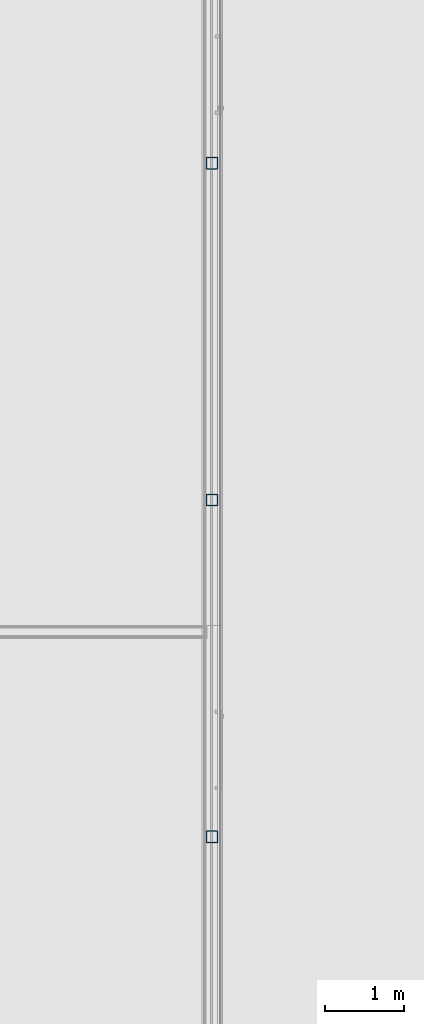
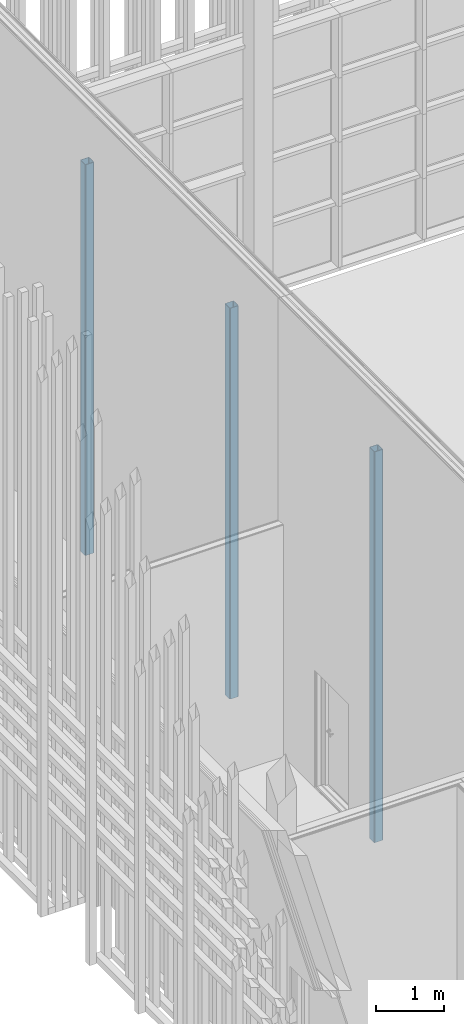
# One storey, part 66 of 260: 3 columns.
"""IFC2X3 building model written with IfcOpenShell, lengths in millimetres."""

from ifc_helpers import new_model, entity, si_unit, converted_unit, derived_unit, money_unit, direction, frame, origin_with_axes, place, context, subcontext, project, spatial, faceted_brep, material, type_object, element, save


model = new_model("IFC2X3")

# Units and contexts
model_context = context("Model", 3, precision=0.01, world=origin_with_axes(), true_north=direction((0.0, 1.0)))
body_context = subcontext(model_context, "Body", "Model", "MODEL_VIEW")
ifc_project = project(units=[si_unit("LENGTHUNIT", "METRE", prefix="MILLI"), si_unit("AREAUNIT", "SQUARE_METRE"), si_unit("VOLUMEUNIT", "CUBIC_METRE"), converted_unit("PLANEANGLEUNIT", "DEGREE", entity("IfcPlaneAngleMeasure", 0.0174532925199), si_unit("PLANEANGLEUNIT", "RADIAN"), dimensions=[0, 0, 0, 0, 0, 0, 0]), money_unit("EUR"), converted_unit("TIMEUNIT", "Year", entity("IfcTimeMeasure", 31556926.0), si_unit("TIMEUNIT", "SECOND"), dimensions=[0, 0, 1, 0, 0, 0, 0]), si_unit("MASSUNIT", "GRAM", prefix="KILO"), si_unit("THERMODYNAMICTEMPERATUREUNIT", "DEGREE_CELSIUS"), si_unit("LUMINOUSINTENSITYUNIT", "LUMEN"), si_unit("ENERGYUNIT", "JOULE", prefix="MEGA"), derived_unit("THERMALCONDUCTANCEUNIT", [(si_unit("POWERUNIT", "WATT"), 1), (si_unit("LENGTHUNIT", "METRE"), -1), (si_unit("THERMODYNAMICTEMPERATUREUNIT", "KELVIN"), -1)]), derived_unit("SPECIFICHEATCAPACITYUNIT", [(si_unit("ENERGYUNIT", "JOULE"), 1), (si_unit("MASSUNIT", "GRAM", prefix="KILO"), -1), (si_unit("THERMODYNAMICTEMPERATUREUNIT", "KELVIN"), -1)]), derived_unit("MASSDENSITYUNIT", [(si_unit("MASSUNIT", "GRAM", prefix="KILO"), 1), (si_unit("VOLUMEUNIT", "CUBIC_METRE"), -1)])], contexts=[model_context])

# Site, building, storey
site_placement = place(None, origin_with_axes())
site = spatial("IfcSite", under=ifc_project, at=site_placement, Name="Kolde pst 67a", CompositionType="ELEMENT")
building_placement = place(site_placement, origin_with_axes())
building = spatial("IfcBuilding", under=site, at=building_placement, Name="Riigigümnaasium", CompositionType="ELEMENT")
storey_placement = place(building_placement, origin_with_axes())
storey = spatial("IfcBuildingStorey", under=building, at=storey_placement, Name="1. korrus", CompositionType="ELEMENT", Elevation=0.0)

# Columns
ifc_material = material(Name="IFC Building Material")
column_type = type_object("IfcColumnType", Name="SHS150x150x6 150 x 150", PredefinedType="COLUMN")
column_1_placement = place(storey_placement, frame((4270.0, 71525.2790942, 0.0), z_axis=(0.0, 0.0, 1.0), x_axis=(1.0, 0.0, 0.0)))
element("IfcColumn", 1, at=column_1_placement, inside=storey, type_object=column_type, material=ifc_material, Name="Post", ObjectType="COLUMN", context=body_context, shape_type="Brep", body=[
    faceted_brep([(71.4852813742, -71.4852813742, 7000.0), (71.4852813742, -71.4852813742, 0.0), (75.0, -63.0, 0.0), (75.0, -63.0, 7000.0), (63.0, -75.0, 7000.0), (63.0, -75.0, 0.0), (-63.0, -75.0, 0.0), (-71.4852813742, -71.4852813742, 0.0), (-75.0, -63.0, 0.0), (-75.0, 63.0, 0.0), (-71.4852813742, 71.4852813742, 0.0), (-63.0, 75.0, 0.0), (63.0, 75.0, 0.0), (71.4852813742, 71.4852813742, 0.0), (75.0, 63.0, 0.0), (-67.2426406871, -67.2426406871, 0.0), (-63.0, -69.0, 0.0), (63.0, -69.0, 0.0), (67.2426406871, -67.2426406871, 0.0), (69.0, -63.0, 0.0), (69.0, 63.0, 0.0), (67.2426406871, 67.2426406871, 0.0), (63.0, 69.0, 0.0), (-63.0, 69.0, 0.0), (-67.2426406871, 67.2426406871, 0.0), (-69.0, 63.0, 0.0), (-69.0, -63.0, 0.0), (75.0, 63.0, 7000.0), (71.4852813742, 71.4852813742, 7000.0), (63.0, 75.0, 7000.0), (-63.0, 75.0, 7000.0), (-71.4852813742, 71.4852813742, 7000.0), (-75.0, 63.0, 7000.0), (-75.0, -63.0, 7000.0), (-71.4852813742, -71.4852813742, 7000.0), (-63.0, -75.0, 7000.0), (63.0, -69.0, 7000.0), (-63.0, -69.0, 7000.0), (-67.2426406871, -67.2426406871, 7000.0), (-69.0, -63.0, 7000.0), (-69.0, 63.0, 7000.0), (-67.2426406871, 67.2426406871, 7000.0), (-63.0, 69.0, 7000.0), (63.0, 69.0, 7000.0), (67.2426406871, 67.2426406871, 7000.0), (69.0, 63.0, 7000.0), (69.0, -63.0, 7000.0), (67.2426406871, -67.2426406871, 7000.0)], [[[0, 1, 2, 3]], [[4, 5, 1, 0]], [[2, 1, 5, 6, 7, 8, 9, 10, 11, 12, 13, 14], [15, 16, 17, 18, 19, 20, 21, 22, 23, 24, 25, 26]], [[3, 2, 14, 27]], [[4, 0, 3, 27, 28, 29, 30, 31, 32, 33, 34, 35], [36, 37, 38, 39, 40, 41, 42, 43, 44, 45, 46, 47]], [[35, 6, 5, 4]], [[34, 7, 6, 35]], [[33, 8, 7, 34]], [[32, 9, 8, 33]], [[31, 10, 9, 32]], [[30, 11, 10, 31]], [[29, 12, 11, 30]], [[28, 13, 12, 29]], [[27, 14, 13, 28]], [[37, 16, 15, 38]], [[36, 17, 16, 37]], [[47, 18, 17, 36]], [[46, 19, 18, 47]], [[45, 20, 19, 46]], [[44, 21, 20, 45]], [[43, 22, 21, 44]], [[42, 23, 22, 43]], [[41, 24, 23, 42]], [[40, 25, 24, 41]], [[39, 26, 25, 40]], [[38, 15, 26, 39]]]),
])
column_2_placement = place(storey_placement, frame((4270.0, 75765.2709354, 0.0), z_axis=(0.0, 0.0, 1.0), x_axis=(1.0, 0.0, 0.0)))
element("IfcColumn", 2, at=column_2_placement, inside=storey, type_object=column_type, material=ifc_material, Name="Post", ObjectType="COLUMN", context=body_context, shape_type="Brep", body=[
    faceted_brep([(71.4852813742, -71.4852813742, 7000.0), (71.4852813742, -71.4852813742, 0.0), (75.0, -63.0, 0.0), (75.0, -63.0, 7000.0), (63.0, -75.0, 7000.0), (63.0, -75.0, 0.0), (-63.0, -75.0, 0.0), (-71.4852813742, -71.4852813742, 0.0), (-75.0, -63.0, 0.0), (-75.0, 63.0, 0.0), (-71.4852813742, 71.4852813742, 0.0), (-63.0, 75.0, 0.0), (63.0, 75.0, 0.0), (71.4852813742, 71.4852813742, 0.0), (75.0, 63.0, 0.0), (-67.2426406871, -67.2426406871, 0.0), (-63.0, -69.0, 0.0), (63.0, -69.0, 0.0), (67.2426406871, -67.2426406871, 0.0), (69.0, -63.0, 0.0), (69.0, 63.0, 0.0), (67.2426406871, 67.2426406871, 0.0), (63.0, 69.0, 0.0), (-63.0, 69.0, 0.0), (-67.2426406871, 67.2426406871, 0.0), (-69.0, 63.0, 0.0), (-69.0, -63.0, 0.0), (75.0, 63.0, 7000.0), (71.4852813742, 71.4852813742, 7000.0), (63.0, 75.0, 7000.0), (-63.0, 75.0, 7000.0), (-71.4852813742, 71.4852813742, 7000.0), (-75.0, 63.0, 7000.0), (-75.0, -63.0, 7000.0), (-71.4852813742, -71.4852813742, 7000.0), (-63.0, -75.0, 7000.0), (63.0, -69.0, 7000.0), (-63.0, -69.0, 7000.0), (-67.2426406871, -67.2426406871, 7000.0), (-69.0, -63.0, 7000.0), (-69.0, 63.0, 7000.0), (-67.2426406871, 67.2426406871, 7000.0), (-63.0, 69.0, 7000.0), (63.0, 69.0, 7000.0), (67.2426406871, 67.2426406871, 7000.0), (69.0, 63.0, 7000.0), (69.0, -63.0, 7000.0), (67.2426406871, -67.2426406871, 7000.0)], [[[0, 1, 2, 3]], [[4, 5, 1, 0]], [[2, 1, 5, 6, 7, 8, 9, 10, 11, 12, 13, 14], [15, 16, 17, 18, 19, 20, 21, 22, 23, 24, 25, 26]], [[3, 2, 14, 27]], [[4, 0, 3, 27, 28, 29, 30, 31, 32, 33, 34, 35], [36, 37, 38, 39, 40, 41, 42, 43, 44, 45, 46, 47]], [[35, 6, 5, 4]], [[34, 7, 6, 35]], [[33, 8, 7, 34]], [[32, 9, 8, 33]], [[31, 10, 9, 32]], [[30, 11, 10, 31]], [[29, 12, 11, 30]], [[28, 13, 12, 29]], [[27, 14, 13, 28]], [[37, 16, 15, 38]], [[36, 17, 16, 37]], [[47, 18, 17, 36]], [[46, 19, 18, 47]], [[45, 20, 19, 46]], [[44, 21, 20, 45]], [[43, 22, 21, 44]], [[42, 23, 22, 43]], [[41, 24, 23, 42]], [[40, 25, 24, 41]], [[39, 26, 25, 40]], [[38, 15, 26, 39]]]),
])
column_3_placement = place(storey_placement, frame((4270.0, 80005.2627767, 0.0), z_axis=(0.0, 0.0, 1.0), x_axis=(1.0, 0.0, 0.0)))
element("IfcColumn", 3, at=column_3_placement, inside=storey, type_object=column_type, material=ifc_material, Name="Post", ObjectType="COLUMN", context=body_context, shape_type="Brep", body=[
    faceted_brep([(71.4852813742, -71.4852813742, 7000.0), (71.4852813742, -71.4852813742, 0.0), (75.0, -63.0, 0.0), (75.0, -63.0, 7000.0), (63.0, -75.0, 7000.0), (63.0, -75.0, 0.0), (-63.0, -75.0, 0.0), (-71.4852813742, -71.4852813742, 0.0), (-75.0, -63.0, 0.0), (-75.0, 63.0, 0.0), (-71.4852813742, 71.4852813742, 0.0), (-63.0, 75.0, 0.0), (63.0, 75.0, 0.0), (71.4852813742, 71.4852813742, 0.0), (75.0, 63.0, 0.0), (-67.2426406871, -67.2426406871, 0.0), (-63.0, -69.0, 0.0), (63.0, -69.0, 0.0), (67.2426406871, -67.2426406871, 0.0), (69.0, -63.0, 0.0), (69.0, 63.0, 0.0), (67.2426406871, 67.2426406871, 0.0), (63.0, 69.0, 0.0), (-63.0, 69.0, 0.0), (-67.2426406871, 67.2426406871, 0.0), (-69.0, 63.0, 0.0), (-69.0, -63.0, 0.0), (75.0, 63.0, 7000.0), (71.4852813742, 71.4852813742, 7000.0), (63.0, 75.0, 7000.0), (-63.0, 75.0, 7000.0), (-71.4852813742, 71.4852813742, 7000.0), (-75.0, 63.0, 7000.0), (-75.0, -63.0, 7000.0), (-71.4852813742, -71.4852813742, 7000.0), (-63.0, -75.0, 7000.0), (63.0, -69.0, 7000.0), (-63.0, -69.0, 7000.0), (-67.2426406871, -67.2426406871, 7000.0), (-69.0, -63.0, 7000.0), (-69.0, 63.0, 7000.0), (-67.2426406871, 67.2426406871, 7000.0), (-63.0, 69.0, 7000.0), (63.0, 69.0, 7000.0), (67.2426406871, 67.2426406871, 7000.0), (69.0, 63.0, 7000.0), (69.0, -63.0, 7000.0), (67.2426406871, -67.2426406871, 7000.0)], [[[0, 1, 2, 3]], [[4, 5, 1, 0]], [[2, 1, 5, 6, 7, 8, 9, 10, 11, 12, 13, 14], [15, 16, 17, 18, 19, 20, 21, 22, 23, 24, 25, 26]], [[3, 2, 14, 27]], [[4, 0, 3, 27, 28, 29, 30, 31, 32, 33, 34, 35], [36, 37, 38, 39, 40, 41, 42, 43, 44, 45, 46, 47]], [[35, 6, 5, 4]], [[34, 7, 6, 35]], [[33, 8, 7, 34]], [[32, 9, 8, 33]], [[31, 10, 9, 32]], [[30, 11, 10, 31]], [[29, 12, 11, 30]], [[28, 13, 12, 29]], [[27, 14, 13, 28]], [[37, 16, 15, 38]], [[36, 17, 16, 37]], [[47, 18, 17, 36]], [[46, 19, 18, 47]], [[45, 20, 19, 46]], [[44, 21, 20, 45]], [[43, 22, 21, 44]], [[42, 23, 22, 43]], [[41, 24, 23, 42]], [[40, 25, 24, 41]], [[39, 26, 25, 40]], [[38, 15, 26, 39]]]),
])

save(model, "model.ifc")
